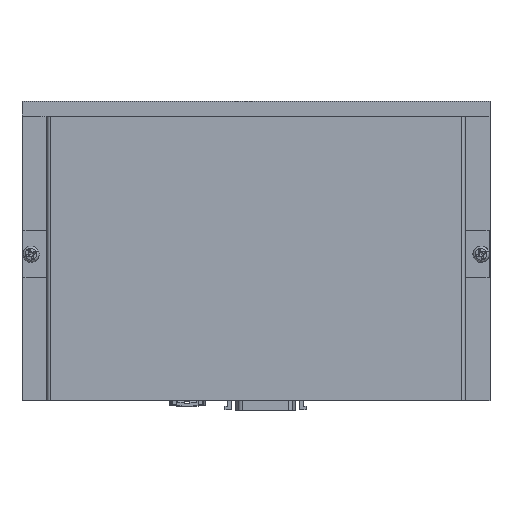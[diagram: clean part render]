
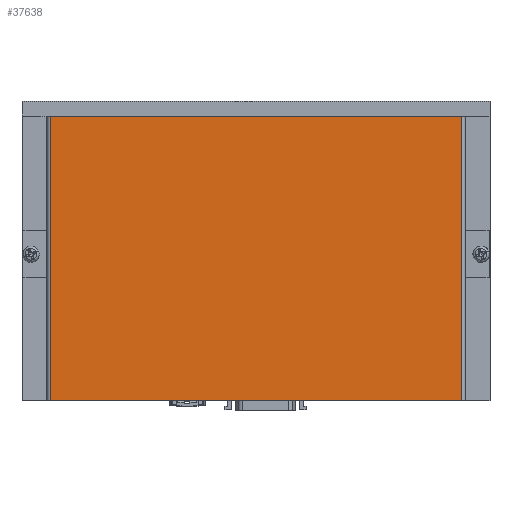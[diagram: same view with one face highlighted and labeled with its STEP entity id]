
A CAD part, top view. The second image highlights one B-rep face of the part: STEP entity #37638.
In plain terms, the highlighted planar face has unit normal (0, 0, 1).
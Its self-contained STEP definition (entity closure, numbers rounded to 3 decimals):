
#147 = CARTESIAN_POINT ( 'NONE',  ( 1.2, 0., 0. ) ) ;
#1490 = VERTEX_POINT ( 'NONE', #37030 ) ;
#3037 = FACE_OUTER_BOUND ( 'NONE', #9379, .T. ) ;
#7597 = DIRECTION ( 'NONE',  ( 0., 1., 0. ) ) ;
#7806 = LINE ( 'NONE', #10306, #50267 ) ;
#9379 = EDGE_LOOP ( 'NONE', ( #31473, #26395, #17214, #44726 ) ) ;
#10306 = CARTESIAN_POINT ( 'NONE',  ( 1.2, 0., 0. ) ) ;
#12291 = LINE ( 'NONE', #41570, #33552 ) ;
#16971 = CARTESIAN_POINT ( 'NONE',  ( 139.2, 0., 0. ) ) ;
#17214 = ORIENTED_EDGE ( 'NONE', *, *, #46749, .F. ) ;
#18181 = VECTOR ( 'NONE', #20297, 1000. ) ;
#20297 = DIRECTION ( 'NONE',  ( 1., 0., 0. ) ) ;
#24208 = DIRECTION ( 'NONE',  ( 0., 0., 1. ) ) ;
#26395 = ORIENTED_EDGE ( 'NONE', *, *, #50059, .T. ) ;
#31235 = VECTOR ( 'NONE', #34587, 1000. ) ;
#31473 = ORIENTED_EDGE ( 'NONE', *, *, #44791, .T. ) ;
#33552 = VECTOR ( 'NONE', #7597, 1000. ) ;
#33578 = VERTEX_POINT ( 'NONE', #16971 ) ;
#34587 = DIRECTION ( 'NONE',  ( 1., 0., 0. ) ) ;
#35155 = AXIS2_PLACEMENT_3D ( 'NONE', #49560, #24208, #53803 ) ;
#35897 = VERTEX_POINT ( 'NONE', #43406 ) ;
#37030 = CARTESIAN_POINT ( 'NONE',  ( 139.2, 95.5, 0. ) ) ;
#37319 = CARTESIAN_POINT ( 'NONE',  ( 0., 0., 0. ) ) ;
#37638 = ADVANCED_FACE ( 'NONE', ( #3037 ), #53634, .T. ) ;
#40024 = DIRECTION ( 'NONE',  ( 0., -1., 0. ) ) ;
#41570 = CARTESIAN_POINT ( 'NONE',  ( 139.2, 0., 0. ) ) ;
#41698 = EDGE_CURVE ( 'NONE', #35897, #50796, #7806, .T. ) ;
#42019 = LINE ( 'NONE', #37319, #18181 ) ;
#42876 = CARTESIAN_POINT ( 'NONE',  ( 0., 95.5, 0. ) ) ;
#43406 = CARTESIAN_POINT ( 'NONE',  ( 1.2, 95.5, 0. ) ) ;
#43787 = LINE ( 'NONE', #42876, #31235 ) ;
#44726 = ORIENTED_EDGE ( 'NONE', *, *, #41698, .T. ) ;
#44791 = EDGE_CURVE ( 'NONE', #50796, #33578, #42019, .T. ) ;
#46749 = EDGE_CURVE ( 'NONE', #35897, #1490, #43787, .T. ) ;
#49560 = CARTESIAN_POINT ( 'NONE',  ( 0., 0., 0. ) ) ;
#50059 = EDGE_CURVE ( 'NONE', #33578, #1490, #12291, .T. ) ;
#50267 = VECTOR ( 'NONE', #40024, 1000. ) ;
#50796 = VERTEX_POINT ( 'NONE', #147 ) ;
#53634 = PLANE ( 'NONE',  #35155 ) ;
#53803 = DIRECTION ( 'NONE',  ( 1., 0., 0. ) ) ;
